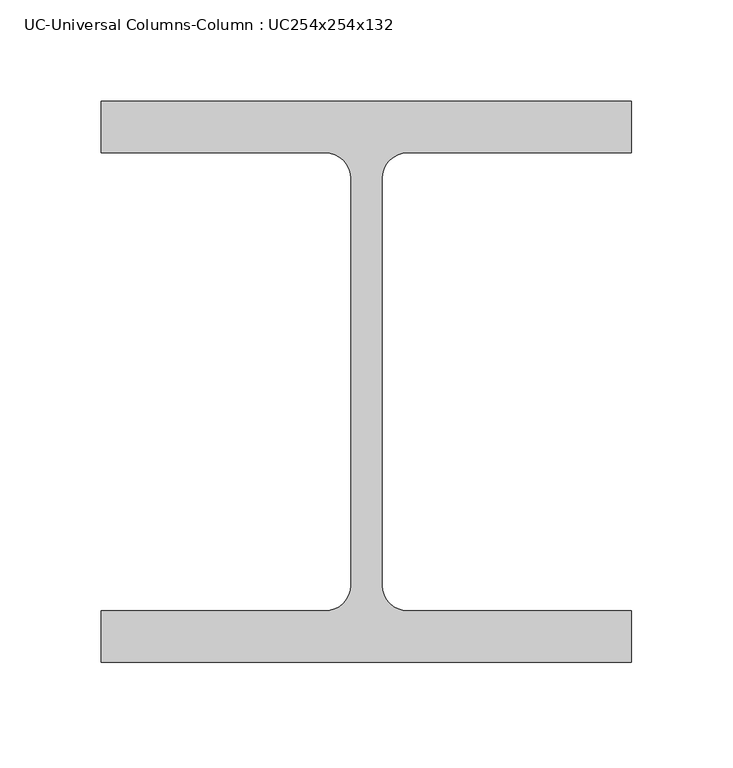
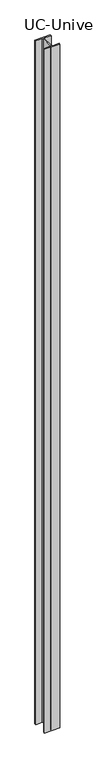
"""IFC4 building model written with IfcOpenShell, lengths in millimetres: column geometry, UC-Universal Columns-Column : UC254x254x132."""

from ifc_helpers import new_model, si_unit, point, frame, frame_2d, origin, place, context, project, spatial, polyline, circle_curve, trimmed, segment, composite_curve, outline, extrude, source, transform, mapped, element, save


def uc_universal_columns_column_uc254x254x132_117509a7(model_context):
    return source(origin(), model_context, "Body", "SweptSolid", [
        extrude(outline(composite_curve([segment(polyline([(130.65, 138.15), (130.65, 112.85), (20.35, 112.85)]), True, "CONTINUOUS"), segment(trimmed(circle_curve(frame_2d((20.35, 100.15)), 12.7), [point((20.35, 112.85))], [point((7.65, 100.15))], True, "CARTESIAN"), True, "CONTINUOUS"), segment(polyline([(7.65, 100.15), (7.65, -100.15)]), True, "CONTINUOUS"), segment(trimmed(circle_curve(frame_2d((20.35, -100.15)), 12.7), [point((7.65, -100.15))], [point((20.35, -112.85))], True, "CARTESIAN"), True, "CONTINUOUS"), segment(polyline([(20.35, -112.85), (130.65, -112.85), (130.65, -138.15), (-130.65, -138.15), (-130.65, -112.85), (-20.35, -112.85)]), True, "CONTINUOUS"), segment(trimmed(circle_curve(frame_2d((-20.35, -100.15)), 12.7), [point((-20.35, -112.85))], [point((-7.65, -100.15))], True, "CARTESIAN"), True, "CONTINUOUS"), segment(polyline([(-7.65, -100.15), (-7.65, 100.15)]), True, "CONTINUOUS"), segment(trimmed(circle_curve(frame_2d((-20.35, 100.15)), 12.7), [point((-7.65, 100.15))], [point((-20.35, 112.85))], True, "CARTESIAN"), True, "CONTINUOUS"), segment(polyline([(-20.35, 112.85), (-130.65, 112.85), (-130.65, 138.15), (130.65, 138.15)]), True, "CONTINUOUS")], self_intersect=False)), frame((0.0, 0.0, -450.0), z_axis=(0.0, 0.0, 1.0), x_axis=(1.0, 0.0, 0.0)), (0.0, 0.0, 1.0), 12150.0),
    ])


if __name__ == "__main__":
    model = new_model("IFC4")
    model_context = context("Model", 3, world=origin())
    ifc_project = project(units=[si_unit("LENGTHUNIT", "METRE", prefix="MILLI")], contexts=[model_context])
    site = spatial("IfcSite", under=ifc_project)
    building = spatial("IfcBuilding", under=site)
    placement = place(None, origin())
    uc_universal_columns_column_uc254x254x132_shape = uc_universal_columns_column_uc254x254x132_117509a7(model_context)
    element("IfcColumn", 1, ObjectType="UC-Universal Columns-Column : UC254x254x132", at=placement, inside=building, context=model_context, shape_type="MappedRepresentation", body=[
        mapped(uc_universal_columns_column_uc254x254x132_shape, transform((0.0, 0.0, 0.0), x_axis=(1.0, 0.0, 0.0), y_axis=(0.0, 1.0, 0.0), z_axis=(0.0, 0.0, 1.0))),
    ])
    save(model, "model.ifc")
